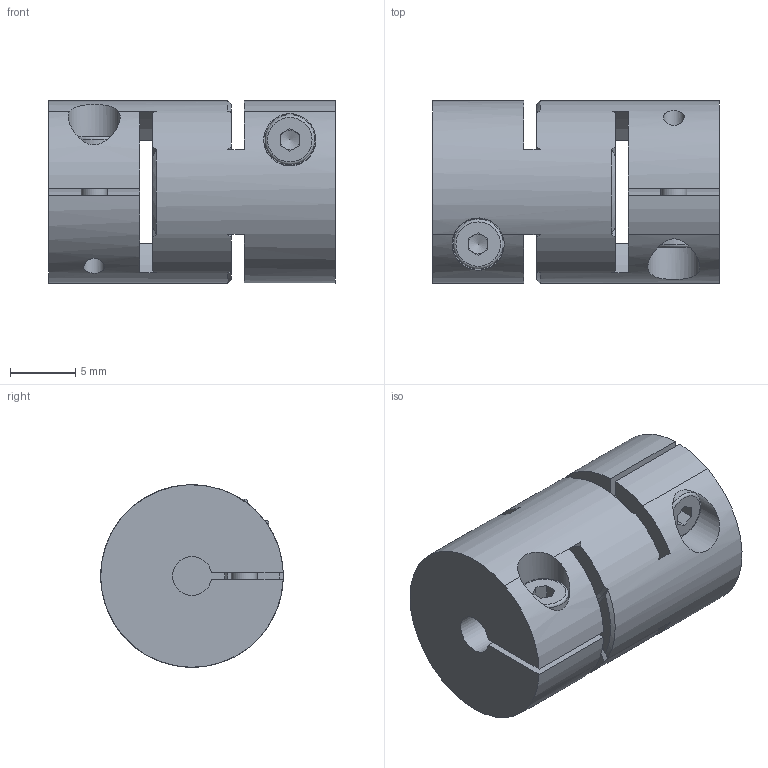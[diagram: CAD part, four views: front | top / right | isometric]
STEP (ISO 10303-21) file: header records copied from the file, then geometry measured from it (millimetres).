
FILE_DESCRIPTION( ( 'Unknown' ), '1' );
FILE_NAME( 'F:/JAKOB-STEP+IGES-Dateien/STEP-Dateien/MJT-C/MJT 14C.stp', 'Unknown', ( 'Unknown' ), ( 'Unknown' ), 'PSStep 10.1', 'Unknown', ' ' );
FILE_SCHEMA( ( 'AUTOMOTIVE_DESIGN { 1 0 10303 214 1 1 1 1 }' ) );
Length unit declared in the file: millimetre
Products named in the file (1): M J T 14 C 2
Bounding box: 22 x 14 x 14 mm (x, y, z)
Volume: 2828.1 mm3; surface area: 2300 mm2
Topology: 1 solids, 1 shells, 127 faces, 318 edges, 200 vertices
Faces by surface type: plane 48, cylinder 41, cone 36, torus 2
Full cylindrical faces by diameter (mm): 1.6 x2, 2 x2, 2.25 x2, 3.8 x2, 4 x2, 5 x2, 14 x1
Entity records: 5262 total; most frequent: CARTESIAN_POINT 1340, DIRECTION 652, ORIENTED_EDGE 560, AXIS2_PLACEMENT_3D 282, EDGE_CURVE 280, VERTEX_POINT 186, EDGE_LOOP 160, CIRCLE 156
